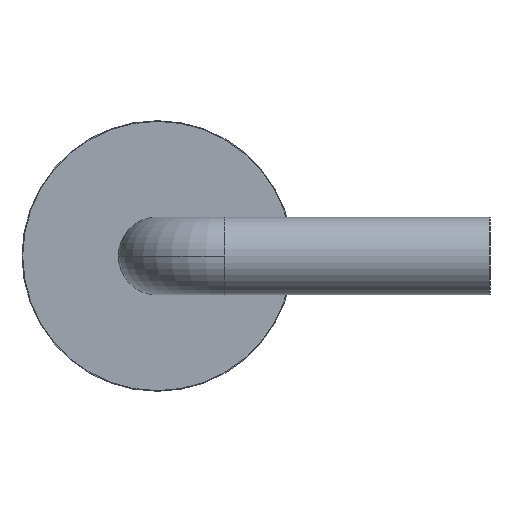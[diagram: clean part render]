
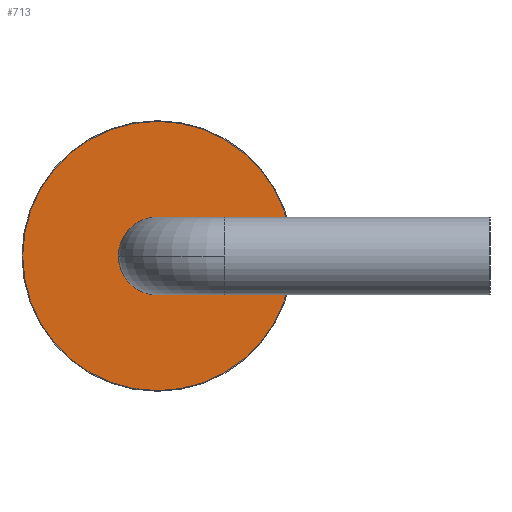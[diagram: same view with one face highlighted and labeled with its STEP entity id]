
A CAD part, left-side view. The second image highlights one B-rep face of the part: STEP entity #713.
In plain terms, the highlighted planar face has unit normal (-1, 0, 0).
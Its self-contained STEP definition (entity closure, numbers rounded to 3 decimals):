
#655 = CARTESIAN_POINT ( 'NONE',  ( -2.605, 1.36, -1.36 ) ) ;
#656 = VERTEX_POINT ( 'NONE', #655 ) ;
#663 = CARTESIAN_POINT ( 'NONE',  ( -2.605, 1.36, 1.36 ) ) ;
#664 = VERTEX_POINT ( 'NONE', #663 ) ;
#665 = CARTESIAN_POINT ( 'NONE',  ( -2.605, 1.36, 0. ) ) ;
#666 = DIRECTION ( 'NONE',  ( -1., 0., 0. ) ) ;
#667 = DIRECTION ( 'NONE',  ( 0., 0., 1. ) ) ;
#668 = AXIS2_PLACEMENT_3D ( 'NONE', #665, #666, #667 ) ;
#669 = CIRCLE ( 'NONE', #668, 1.36) ;
#670 = EDGE_CURVE ( 'NONE', #664, #656, #669, .T. ) ;
#689 = CARTESIAN_POINT ( 'NONE',  ( -2.605, 1.36, 0. ) ) ;
#690 = DIRECTION ( 'NONE',  ( -1., 0., 0. ) ) ;
#691 = DIRECTION ( 'NONE',  ( 0., 0., 1. ) ) ;
#692 = AXIS2_PLACEMENT_3D ( 'NONE', #689, #690, #691 ) ;
#693 = CIRCLE ( 'NONE', #692, 1.36) ;
#694 = EDGE_CURVE ( 'NONE', #656, #664, #693, .T. ) ;
#704 = ORIENTED_EDGE ( 'NONE', *, *, #670, .T. ) ;
#705 = ORIENTED_EDGE ( 'NONE', *, *, #694, .T. ) ;
#706 = EDGE_LOOP ( 'NONE', ( #704, #705 ) ) ;
#707 = FACE_OUTER_BOUND ( 'NONE', #706, .T. ) ;
#708 = CARTESIAN_POINT ( 'NONE',  ( -2.605, 1.36, 0. ) ) ;
#709 = DIRECTION ( 'NONE',  ( 1., 0., 0. ) ) ;
#710 = DIRECTION ( 'NONE',  ( 0., 0., -1. ) ) ;
#711 = AXIS2_PLACEMENT_3D ( 'NONE', #708, #709, #710 ) ;
#712 = PLANE ( 'NONE', #711 ) ;
#713 = ADVANCED_FACE ( 'NONE', ( #707 ), #712, .F. ) ;
